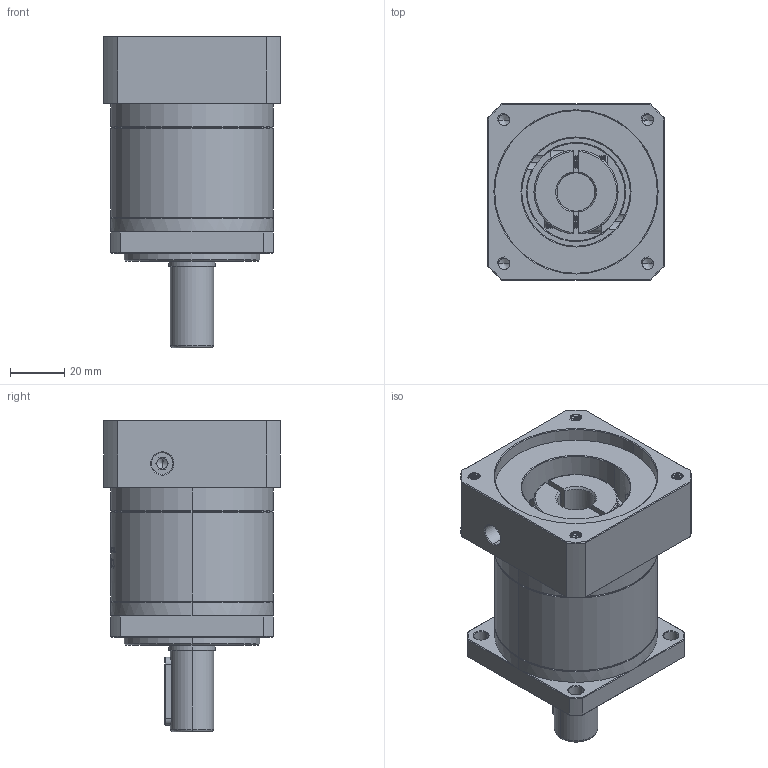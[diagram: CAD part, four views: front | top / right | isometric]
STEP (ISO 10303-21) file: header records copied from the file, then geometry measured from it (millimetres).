
FILE_DESCRIPTION (( 'STEP AP214' ), '1' );
FILE_NAME ('ZF60-D16-L1-14-60-75-M5.STEP', '2022-04-17T11:53:39', ( '' ), ( 'Microsoft' ), 'SwSTEP 2.0', 'SolidWorks 2016', '' );
FILE_SCHEMA (( 'AUTOMOTIVE_DESIGN' ));
Length unit declared in the file: millimetre
Products named in the file (1): ZF60-D16-L1-14-60-75-M5
Bounding box: 65 x 65 x 115 mm (x, y, z)
Volume: 235049.7 mm3; surface area: 46728 mm2
Topology: 6 solids, 6 shells, 1661 faces, 4485 edges, 2901 vertices
Faces by surface type: plane 749, cylinder 359, bspline 299, cone 236, torus 18
Entity records: 94515 total; most frequent: CARTESIAN_POINT 38309, ORIENTED_EDGE 8942, DIRECTION 6571, EDGE_CURVE 4471, VERTEX_POINT 2901, VECTOR 2285, LINE 2285, AXIS2_PLACEMENT_3D 2143
